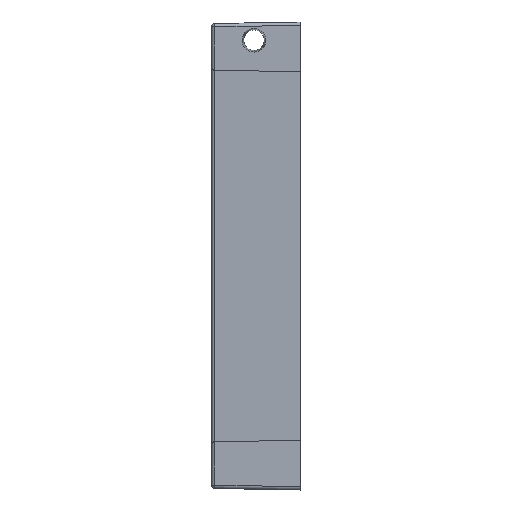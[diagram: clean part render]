
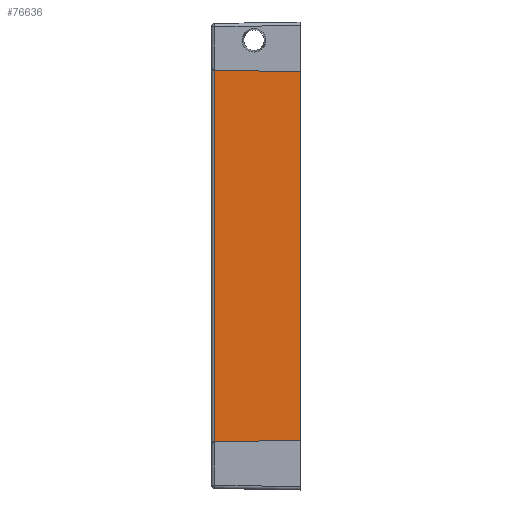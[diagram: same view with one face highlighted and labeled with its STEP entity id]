
A CAD part, front view. The second image highlights one B-rep face of the part: STEP entity #76636.
In plain terms, the highlighted planar face has unit normal (-0.018, -1, 0) as drawn and (0, -1, -0.017) by its records, which use the part's own axes.
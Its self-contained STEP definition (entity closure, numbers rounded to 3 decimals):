
#5029 = DIRECTION ( 'NONE',  ( 0.017, -0.017, 1. ) ) ;
#6397 = EDGE_LOOP ( 'NONE', ( #86490, #37375, #95793, #7102 ) ) ;
#6504 = DIRECTION ( 'NONE',  ( 0.017, 0.017, -1. ) ) ;
#7102 = ORIENTED_EDGE ( 'NONE', *, *, #110670, .T. ) ;
#7489 = LINE ( 'NONE', #106742, #86917 ) ;
#13356 = VERTEX_POINT ( 'NONE', #54004 ) ;
#18955 = LINE ( 'NONE', #46191, #109313 ) ;
#34559 = EDGE_CURVE ( 'NONE', #100766, #38758, #18955, .T. ) ;
#37375 = ORIENTED_EDGE ( 'NONE', *, *, #97136, .T. ) ;
#38758 = VERTEX_POINT ( 'NONE', #94151 ) ;
#46191 = CARTESIAN_POINT ( 'NONE',  ( 111.462, -46.238, 1.698 ) ) ;
#47186 = VECTOR ( 'NONE', #129125, 1000. ) ;
#54004 = CARTESIAN_POINT ( 'NONE',  ( 0.041, -45.741, -26.817 ) ) ;
#57862 = VECTOR ( 'NONE', #5029, 1000. ) ;
#58386 = DIRECTION ( 'NONE',  ( 0., -1., -0.017 ) ) ;
#71216 = DIRECTION ( 'NONE',  ( -1., 0., 0. ) ) ;
#74565 = CARTESIAN_POINT ( 'NONE',  ( 0.491, -46.191, -1. ) ) ;
#74814 = PLANE ( 'NONE',  #120714 ) ;
#76636 = ADVANCED_FACE ( 'NONE', ( #149962 ), #74814, .T. ) ;
#77866 = CARTESIAN_POINT ( 'NONE',  ( 0.495, -46.195, -0.762 ) ) ;
#86368 = DIRECTION ( 'NONE',  ( 0., 0.017, -1. ) ) ;
#86490 = ORIENTED_EDGE ( 'NONE', *, *, #34559, .F. ) ;
#86917 = VECTOR ( 'NONE', #71216, 1000. ) ;
#94151 = CARTESIAN_POINT ( 'NONE',  ( 111.959, -45.741, -26.817 ) ) ;
#95793 = ORIENTED_EDGE ( 'NONE', *, *, #156190, .F. ) ;
#97136 = EDGE_CURVE ( 'NONE', #100766, #150241, #7489, .T. ) ;
#100766 = VERTEX_POINT ( 'NONE', #109918 ) ;
#106742 = CARTESIAN_POINT ( 'NONE',  ( -14.5, -46.191, -1. ) ) ;
#109313 = VECTOR ( 'NONE', #6504, 1000. ) ;
#109918 = CARTESIAN_POINT ( 'NONE',  ( 111.509, -46.191, -1. ) ) ;
#110670 = EDGE_CURVE ( 'NONE', #13356, #38758, #128311, .T. ) ;
#120714 = AXIS2_PLACEMENT_3D ( 'NONE', #160671, #58386, #86368 ) ;
#128311 = LINE ( 'NONE', #155541, #47186 ) ;
#129125 = DIRECTION ( 'NONE',  ( 1., 0., 0. ) ) ;
#142271 = LINE ( 'NONE', #77866, #57862 ) ;
#149962 = FACE_OUTER_BOUND ( 'NONE', #6397, .T. ) ;
#150241 = VERTEX_POINT ( 'NONE', #74565 ) ;
#155541 = CARTESIAN_POINT ( 'NONE',  ( 111.977, -45.741, -26.817 ) ) ;
#156190 = EDGE_CURVE ( 'NONE', #13356, #150241, #142271, .T. ) ;
#160671 = CARTESIAN_POINT ( 'NONE',  ( -14.5, -46.2, -0.5 ) ) ;
